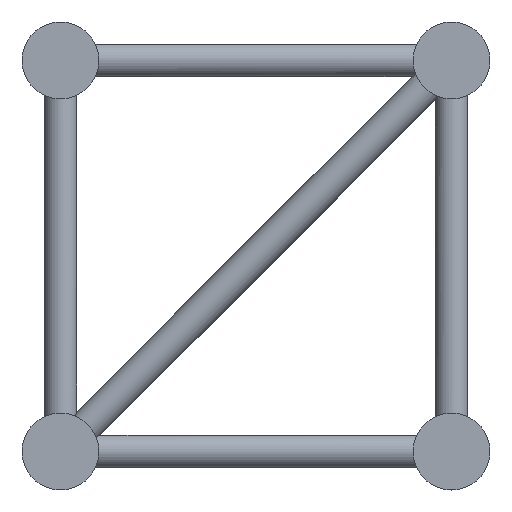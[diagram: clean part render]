
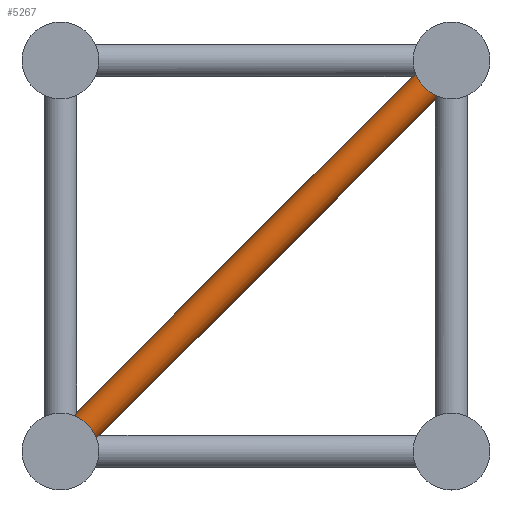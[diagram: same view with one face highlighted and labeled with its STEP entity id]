
A CAD part, left-side view. The second image highlights one B-rep face of the part: STEP entity #5267.
In plain terms, the highlighted cylindrical face has radius 12.5 mm (diameter 25 mm), a full revolution.
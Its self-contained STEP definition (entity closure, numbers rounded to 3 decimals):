
#38=B_SPLINE_CURVE_WITH_KNOTS('',3,(#8010,#8011,#8012,#8013,#8014,#8015),
 .UNSPECIFIED.,.F.,.F.,(4,2,4),(5.757,5.766,5.774),
 .UNSPECIFIED.);
#39=B_SPLINE_CURVE_WITH_KNOTS('',3,(#8021,#8022,#8023,#8024,#8025,#8026),
 .UNSPECIFIED.,.F.,.F.,(4,2,4),(1.913,1.922,1.93),
 .UNSPECIFIED.);
#661=FACE_BOUND('',#1281,.T.);
#931=FACE_OUTER_BOUND('',#1280,.T.);
#1280=EDGE_LOOP('',(#3459,#3460,#3461,#3462,#3463,#3464));
#1281=EDGE_LOOP('',(#3465,#3466,#3467,#3468,#3469,#3470,#3471,#3472,#3473,
#3474,#3475,#3476));
#1896=CIRCLE('',#5640,12.5);
#1897=CIRCLE('',#5641,12.5);
#1898=CIRCLE('',#5643,12.5);
#1899=CIRCLE('',#5644,12.5);
#1900=CIRCLE('',#5647,12.5);
#1901=CIRCLE('',#5648,12.5);
#1902=CIRCLE('',#5650,12.5);
#1903=CIRCLE('',#5651,12.5);
#2142=ELLIPSE('',#5646,32.664,12.5);
#2143=ELLIPSE('',#5649,32.664,12.5);
#2144=ELLIPSE('',#5652,17.678,12.5);
#2145=ELLIPSE('',#5653,17.678,12.5);
#2146=ELLIPSE('',#5654,32.664,12.5);
#2147=ELLIPSE('',#5655,17.678,12.5);
#2148=ELLIPSE('',#5656,17.678,12.5);
#2149=ELLIPSE('',#5657,32.664,12.5);
#2278=VERTEX_POINT('',#7978);
#2279=VERTEX_POINT('',#7979);
#2280=VERTEX_POINT('',#7981);
#2281=VERTEX_POINT('',#7983);
#2282=VERTEX_POINT('',#7987);
#2283=VERTEX_POINT('',#7988);
#2284=VERTEX_POINT('',#7990);
#2285=VERTEX_POINT('',#7992);
#2286=VERTEX_POINT('',#7996);
#2287=VERTEX_POINT('',#7997);
#2288=VERTEX_POINT('',#7999);
#2289=VERTEX_POINT('',#8001);
#2290=VERTEX_POINT('',#8003);
#2291=VERTEX_POINT('',#8005);
#2292=VERTEX_POINT('',#8008);
#2293=VERTEX_POINT('',#8016);
#2294=VERTEX_POINT('',#8018);
#2295=VERTEX_POINT('',#8027);
#2767=EDGE_CURVE('',#2278,#2280,#1896,.T.);
#2769=EDGE_CURVE('',#2281,#2279,#1897,.T.);
#2771=EDGE_CURVE('',#2282,#2284,#1898,.T.);
#2773=EDGE_CURVE('',#2285,#2283,#1899,.T.);
#2774=EDGE_CURVE('',#2286,#2287,#2142,.T.);
#2775=EDGE_CURVE('',#2288,#2286,#1900,.T.);
#2776=EDGE_CURVE('',#2289,#2288,#1901,.T.);
#2777=EDGE_CURVE('',#2290,#2289,#2143,.T.);
#2778=EDGE_CURVE('',#2291,#2290,#1902,.T.);
#2779=EDGE_CURVE('',#2287,#2291,#1903,.T.);
#2780=EDGE_CURVE('',#2283,#2292,#2144,.T.);
#2781=EDGE_CURVE('',#2280,#2285,#38,.T.);
#2782=EDGE_CURVE('',#2293,#2278,#2145,.T.);
#2783=EDGE_CURVE('',#2294,#2293,#2146,.T.);
#2784=EDGE_CURVE('',#2279,#2294,#2147,.T.);
#2785=EDGE_CURVE('',#2284,#2281,#39,.T.);
#2786=EDGE_CURVE('',#2295,#2282,#2148,.T.);
#2787=EDGE_CURVE('',#2292,#2295,#2149,.T.);
#3459=ORIENTED_EDGE('',*,*,#2774,.F.);
#3460=ORIENTED_EDGE('',*,*,#2775,.F.);
#3461=ORIENTED_EDGE('',*,*,#2776,.F.);
#3462=ORIENTED_EDGE('',*,*,#2777,.F.);
#3463=ORIENTED_EDGE('',*,*,#2778,.F.);
#3464=ORIENTED_EDGE('',*,*,#2779,.F.);
#3465=ORIENTED_EDGE('',*,*,#2780,.F.);
#3466=ORIENTED_EDGE('',*,*,#2773,.F.);
#3467=ORIENTED_EDGE('',*,*,#2781,.F.);
#3468=ORIENTED_EDGE('',*,*,#2767,.F.);
#3469=ORIENTED_EDGE('',*,*,#2782,.F.);
#3470=ORIENTED_EDGE('',*,*,#2783,.F.);
#3471=ORIENTED_EDGE('',*,*,#2784,.F.);
#3472=ORIENTED_EDGE('',*,*,#2769,.F.);
#3473=ORIENTED_EDGE('',*,*,#2785,.F.);
#3474=ORIENTED_EDGE('',*,*,#2771,.F.);
#3475=ORIENTED_EDGE('',*,*,#2786,.F.);
#3476=ORIENTED_EDGE('',*,*,#2787,.F.);
#4780=CYLINDRICAL_SURFACE('',#5645,12.5);
#5267=ADVANCED_FACE('',(#931,#661),#4780,.T.);
#5640=AXIS2_PLACEMENT_3D('',#7982,#6413,#6414);
#5641=AXIS2_PLACEMENT_3D('',#7985,#6416,#6417);
#5643=AXIS2_PLACEMENT_3D('',#7991,#6421,#6422);
#5644=AXIS2_PLACEMENT_3D('',#7994,#6424,#6425);
#5645=AXIS2_PLACEMENT_3D('',#7995,#6426,#6427);
#5646=AXIS2_PLACEMENT_3D('',#7998,#6428,#6429);
#5647=AXIS2_PLACEMENT_3D('',#8000,#6430,#6431);
#5648=AXIS2_PLACEMENT_3D('',#8002,#6432,#6433);
#5649=AXIS2_PLACEMENT_3D('',#8004,#6434,#6435);
#5650=AXIS2_PLACEMENT_3D('',#8006,#6436,#6437);
#5651=AXIS2_PLACEMENT_3D('',#8007,#6438,#6439);
#5652=AXIS2_PLACEMENT_3D('',#8009,#6440,#6441);
#5653=AXIS2_PLACEMENT_3D('',#8017,#6442,#6443);
#5654=AXIS2_PLACEMENT_3D('',#8019,#6444,#6445);
#5655=AXIS2_PLACEMENT_3D('',#8020,#6446,#6447);
#5656=AXIS2_PLACEMENT_3D('',#8028,#6448,#6449);
#5657=AXIS2_PLACEMENT_3D('',#8029,#6450,#6451);
#6413=DIRECTION('center_axis',(0.,-0.707,
0.707));
#6414=DIRECTION('ref_axis',(0.,0.707,0.707));
#6416=DIRECTION('center_axis',(0.,-0.707,
0.707));
#6417=DIRECTION('ref_axis',(0.,0.707,0.707));
#6421=DIRECTION('center_axis',(0.,-0.707,
0.707));
#6422=DIRECTION('ref_axis',(0.,0.707,0.707));
#6424=DIRECTION('center_axis',(0.,-0.707,
0.707));
#6425=DIRECTION('ref_axis',(0.,0.707,0.707));
#6426=DIRECTION('center_axis',(0.,-0.707,
0.707));
#6427=DIRECTION('ref_axis',(0.,0.707,0.707));
#6428=DIRECTION('center_axis',(0.,-0.383,
-0.924));
#6429=DIRECTION('ref_axis',(0.,0.924,-0.383));
#6430=DIRECTION('center_axis',(0.,0.707,
-0.707));
#6431=DIRECTION('ref_axis',(0.,0.707,0.707));
#6432=DIRECTION('center_axis',(0.,0.707,
-0.707));
#6433=DIRECTION('ref_axis',(0.,0.707,0.707));
#6434=DIRECTION('center_axis',(0.,0.924,0.383));
#6435=DIRECTION('ref_axis',(0.,-0.383,0.924));
#6436=DIRECTION('center_axis',(0.,0.707,
-0.707));
#6437=DIRECTION('ref_axis',(0.,0.707,0.707));
#6438=DIRECTION('center_axis',(0.,0.707,
-0.707));
#6439=DIRECTION('ref_axis',(0.,0.707,0.707));
#6440=DIRECTION('center_axis',(0.,0.,
-1.));
#6441=DIRECTION('ref_axis',(0.,1.,0.));
#6442=DIRECTION('center_axis',(0.,1.,0.));
#6443=DIRECTION('ref_axis',(0.,0.,1.));
#6444=DIRECTION('center_axis',(0.,0.383,0.924));
#6445=DIRECTION('ref_axis',(0.,0.924,-0.383));
#6446=DIRECTION('center_axis',(0.,1.,0.));
#6447=DIRECTION('ref_axis',(0.,0.,1.));
#6448=DIRECTION('center_axis',(0.,0.,
-1.));
#6449=DIRECTION('ref_axis',(0.,1.,0.));
#6450=DIRECTION('center_axis',(0.,-0.924,-0.383));
#6451=DIRECTION('ref_axis',(0.,-0.383,0.924));
#7978=CARTESIAN_POINT('',(85.499,25.,-10.355));
#7979=CARTESIAN_POINT('',(99.501,25.,-10.355));
#7981=CARTESIAN_POINT('',(80.,17.738,-17.618));
#7982=CARTESIAN_POINT('Origin',(92.5,17.678,-17.678));
#7983=CARTESIAN_POINT('',(105.,17.738,-17.618));
#7985=CARTESIAN_POINT('Origin',(92.5,17.678,-17.678));
#7987=CARTESIAN_POINT('',(99.501,10.355,-25.));
#7988=CARTESIAN_POINT('',(85.499,10.355,-25.));
#7990=CARTESIAN_POINT('',(105.,17.618,-17.738));
#7991=CARTESIAN_POINT('Origin',(92.5,17.678,-17.678));
#7992=CARTESIAN_POINT('',(80.,17.618,-17.738));
#7994=CARTESIAN_POINT('Origin',(92.5,17.678,-17.678));
#7995=CARTESIAN_POINT('Origin',(92.5,281.322,-281.322));
#7996=CARTESIAN_POINT('',(99.501,274.,-288.645));
#7997=CARTESIAN_POINT('',(85.499,274.,-288.645));
#7998=CARTESIAN_POINT('Origin',(92.5,299.,-299.));
#7999=CARTESIAN_POINT('',(105.,281.322,-281.322));
#8000=CARTESIAN_POINT('Origin',(92.5,281.322,-281.322));
#8001=CARTESIAN_POINT('',(99.501,288.645,-274.));
#8002=CARTESIAN_POINT('Origin',(92.5,281.322,-281.322));
#8003=CARTESIAN_POINT('',(85.499,288.645,-274.));
#8004=CARTESIAN_POINT('Origin',(92.5,299.,-299.));
#8005=CARTESIAN_POINT('',(80.,281.322,-281.322));
#8006=CARTESIAN_POINT('Origin',(92.5,281.322,-281.322));
#8007=CARTESIAN_POINT('Origin',(92.5,281.322,-281.322));
#8008=CARTESIAN_POINT('',(85.499,10.355,-25.));
#8009=CARTESIAN_POINT('Origin',(92.5,25.,-25.));
#8010=CARTESIAN_POINT('Ctrl Pts',(80.,17.738,-17.618));
#8011=CARTESIAN_POINT('Ctrl Pts',(80.,17.718,-17.638));
#8012=CARTESIAN_POINT('Ctrl Pts',(80.,17.698,-17.658));
#8013=CARTESIAN_POINT('Ctrl Pts',(80.,17.658,-17.698));
#8014=CARTESIAN_POINT('Ctrl Pts',(80.,17.638,-17.718));
#8015=CARTESIAN_POINT('Ctrl Pts',(80.,17.618,-17.738));
#8016=CARTESIAN_POINT('',(85.499,25.,-10.355));
#8017=CARTESIAN_POINT('Origin',(92.5,25.,-25.));
#8018=CARTESIAN_POINT('',(99.501,25.,-10.355));
#8019=CARTESIAN_POINT('Origin',(92.5,0.,0.));
#8020=CARTESIAN_POINT('Origin',(92.5,25.,-25.));
#8021=CARTESIAN_POINT('Ctrl Pts',(105.,17.618,-17.738));
#8022=CARTESIAN_POINT('Ctrl Pts',(105.,17.638,-17.718));
#8023=CARTESIAN_POINT('Ctrl Pts',(105.,17.658,-17.698));
#8024=CARTESIAN_POINT('Ctrl Pts',(105.,17.698,-17.658));
#8025=CARTESIAN_POINT('Ctrl Pts',(105.,17.718,-17.638));
#8026=CARTESIAN_POINT('Ctrl Pts',(105.,17.738,-17.618));
#8027=CARTESIAN_POINT('',(99.501,10.355,-25.));
#8028=CARTESIAN_POINT('Origin',(92.5,25.,-25.));
#8029=CARTESIAN_POINT('Origin',(92.5,0.,0.));
